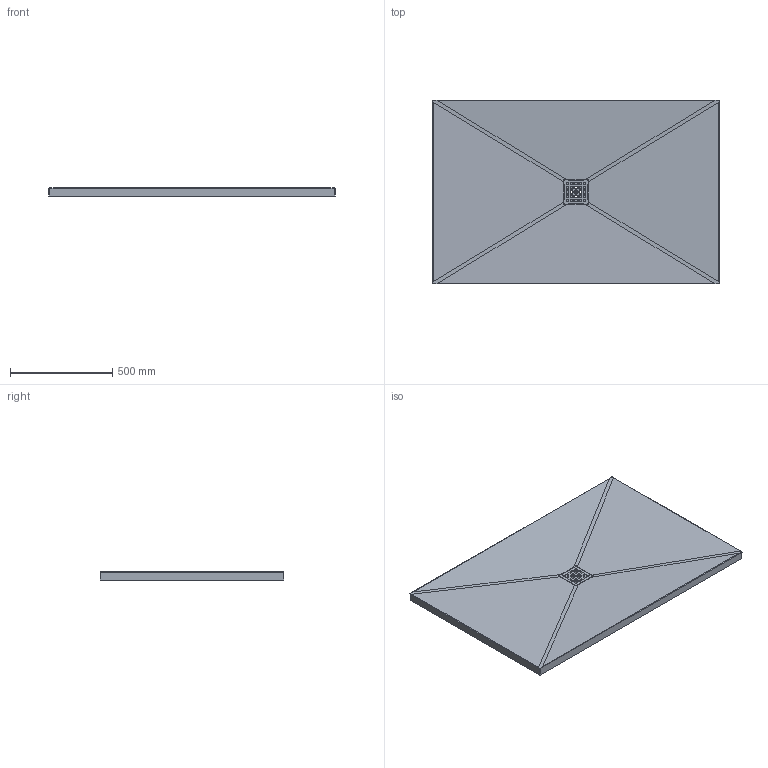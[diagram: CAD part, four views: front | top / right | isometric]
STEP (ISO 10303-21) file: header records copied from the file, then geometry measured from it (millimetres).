
FILE_DESCRIPTION (( 'STEP AP214' ), '1' );
FILE_NAME ('TRENT 140x90.STEP', '2024-05-13T12:01:08', ( '' ), ( '' ), 'SwSTEP 2.0', 'SolidWorks 2021', '' );
FILE_SCHEMA (( 'AUTOMOTIVE_DESIGN' ));
Length unit declared in the file: millimetre
Products named in the file (1): TRENT 140x90
Bounding box: 1400 x 900 x 40.05 mm (x, y, z)
Volume: 17708320.8 mm3; surface area: 3089583 mm2
Topology: 3 solids, 3 shells, 833 faces, 1993 edges, 1151 vertices
Faces by surface type: cylinder 365, bspline 291, plane 177
Full cylindrical faces by diameter (mm): 66 x1
Entity records: 38342 total; most frequent: CARTESIAN_POINT 21484, ORIENTED_EDGE 3974, DIRECTION 2508, EDGE_CURVE 1987, VERTEX_POINT 1151, LINE 928, VECTOR 928, EDGE_LOOP 902
